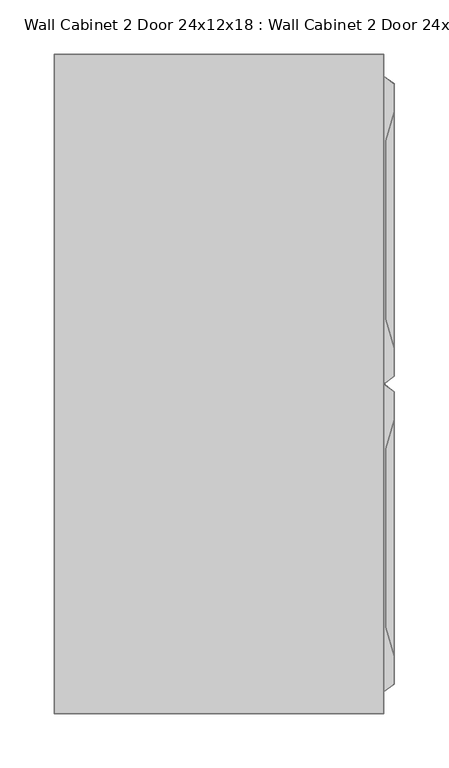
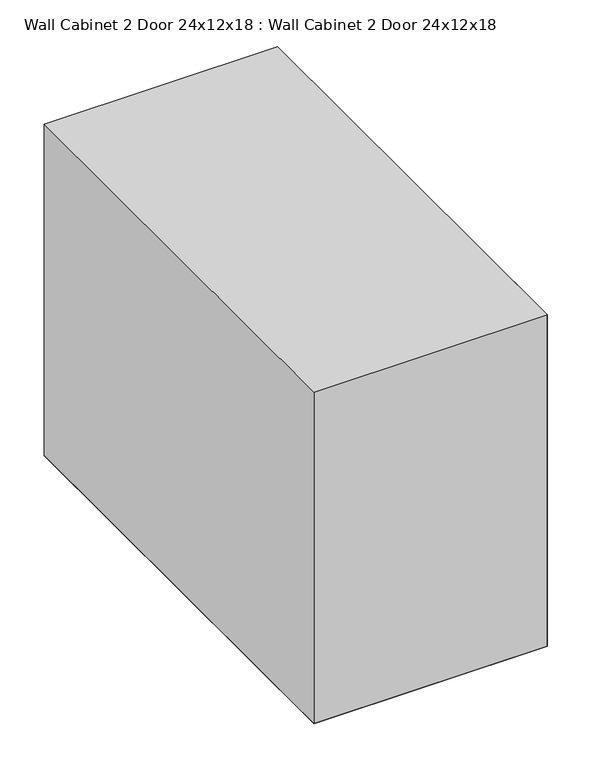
"""IFC4 building model written with IfcOpenShell, lengths in millimetres: furniture geometry, Wall Cabinet 2 Door 24x12x18 : Wall Cabinet 2 Door 24x12x18."""

from ifc_helpers import new_model, si_unit, origin, place, context, project, spatial, triangles, source, transform, mapped, element, save


def wall_cabinet_2_door_24x12x18_wall_cabinet_2_door_24x12x18_907ab7a3(model_context):
    return source(origin(), model_context, "Body", "Tessellation", [
        triangles([(304.8, 494.4831531, 431.8101617), (314.4926497, 492.0691289, 423.3366963), (314.4926497, 537.0575892, 423.3366963), (314.4926497, 447.0806685, 423.3366963), (304.8, 447.0562514, 431.8101617), (314.4926497, 312.0907977, 423.3366963), (314.4926497, 357.1036752, 423.3366963), (304.8, 352.2512824, 431.8101617), (314.4926497, 402.0921719, 423.3366963), (304.8, 399.6537669, 431.8101617), (314.4926497, 537.0575892, 33.8023222), (304.8, 447.0562514, 25.3898406), (304.8, 494.4831531, 25.3898406), (314.4926497, 492.0691289, 33.8023222), (314.4926497, 447.0806685, 33.8023222), (314.4926497, 312.0907977, 33.8023222), (314.4926497, 357.1036752, 33.8023222), (304.8, 352.2512824, 25.3898406), (304.8, 399.6537669, 25.3898406), (314.4926497, 402.0921719, 33.8023222), (304.8, 541.8856376, 431.8101617), (314.4926497, 582.0460496, 423.3366963), (304.8, 589.2881221, 431.8101617), (304.8, 541.8856376, 25.3898406), (304.8, 589.2881221, 25.3898406), (314.4926497, 582.0460496, 33.8023222), (314.4926497, 252.5694672, 33.8023222), (304.8, 257.3975155, 25.3898406), (304.8, 304.8, 25.3898406), (314.4926497, 297.5579457, 33.8023222), (304.8, 209.9950128, 25.3898406), (314.4926497, 207.5809886, 33.8023222), (304.8, 162.5681293, 25.3898406), (304.8, 115.1656358, 25.3898406), (314.4926497, 162.5925101, 33.8023222), (314.4926497, 72.6155531, 33.8023222), (314.4926497, 117.6040407, 33.8023222), (304.8, 20.3362564, 25.3898406), (304.8, 67.7631376, 25.3898406), (314.4926497, 27.602687, 33.8023222), (304.8, 257.3975155, 431.8101617), (314.4926497, 252.5694672, 423.3366963), (314.4926497, 297.5579457, 423.3366963), (304.8, 304.8, 431.8101617), (304.8, 162.5681293, 431.8101617), (304.8, 209.9950128, 431.8101617), (314.4926497, 207.5809886, 423.3366963), (304.8, 115.1656358, 431.8101617), (314.4926497, 117.6040407, 423.3366963), (314.4926497, 162.5925101, 423.3366963), (304.8, 20.3362564, 431.8101617), (314.4926497, 27.602687, 423.3366963), (314.4926497, 72.6155531, 423.3366963), (304.8, 67.7631376, 431.8101617)], [[2, 3, 1], [21, 1, 3], [9, 5, 10], [4, 5, 9], [4, 2, 5], [1, 5, 2], [6, 8, 44], [7, 8, 6], [7, 10, 8], [9, 10, 7], [24, 13, 14], [14, 11, 24], [15, 19, 20], [15, 12, 19], [13, 12, 15], [15, 14, 13], [18, 29, 16], [16, 17, 18], [19, 18, 17], [17, 20, 19], [3, 22, 21], [23, 21, 22], [26, 24, 11], [26, 25, 24], [30, 28, 27], [30, 29, 28], [28, 31, 32], [32, 27, 28], [32, 33, 35], [32, 31, 33], [35, 34, 37], [35, 33, 34], [37, 39, 36], [37, 34, 39], [39, 38, 40], [40, 36, 39], [42, 44, 41], [43, 44, 42], [47, 41, 46], [42, 41, 47], [50, 46, 45], [47, 46, 50], [49, 50, 48], [45, 48, 50], [53, 48, 54], [49, 48, 53], [52, 53, 51], [54, 51, 53]], closed=False),
        triangles([(314.4926497, 556.3453654, 349.2398383), (306.5068726, 529.4741858, 85.4354374), (306.5068726, 392.1191251, 85.4354374), (306.5068726, 392.9969058, 340.3396912), (306.5068726, 419.5998605, 85.4354374), (306.5068726, 417.478442, 360.9441384), (306.5068726, 447.0562514, 367.5583423), (306.5068726, 447.0562514, 85.4354374), (306.5068726, 474.5370232, 85.4354374), (306.5068726, 476.6340245, 360.9441384), (306.5068726, 501.1399415, 340.3396912), (306.5068726, 502.0177949, 85.4354374), (306.5068726, 529.5473282, 329.2449832), (306.5068726, 364.5651747, 329.2449832), (314.4926497, 337.7671738, 349.2398383), (306.5068726, 364.6627341, 85.4354374), (314.4926497, 312.0664533, 423.3366963), (304.8, 304.8243808, 431.8101617), (304.8, 304.8243808, 25.3898406), (314.4926497, 337.8159353, 63.6727169), (314.4926497, 312.0664533, 33.8023222), (314.4926497, 556.3209483, 63.6727169), (314.4926497, 582.0460496, 33.8023222), (314.4926497, 582.0460496, 423.3366963), (304.8, 20.3362564, 25.3898406), (304.8, 20.3362564, 431.8101617), (314.4926497, 53.3278087, 63.6727169), (314.4926497, 27.5783039, 33.8023222), (314.4926497, 27.5783039, 423.3366963), (306.5068726, 80.0770617, 329.2449832), (314.4926497, 53.2790381, 349.2398383), (314.4926497, 297.5579457, 33.8023222), (314.4926497, 297.5579457, 423.3366963), (306.5068726, 244.9860456, 85.4354374), (314.4926497, 271.8328262, 63.6727169), (314.4926497, 271.8572252, 349.2398383), (306.5068726, 245.0591879, 329.2449832), (306.5068726, 216.6518376, 340.3396912), (306.5068726, 190.0489011, 85.4354374), (306.5068726, 217.5296728, 85.4354374), (306.5068726, 192.1459206, 360.9441384), (306.5068726, 162.5681293, 85.4354374), (306.5068726, 132.990329, 360.9441384), (306.5068726, 135.1117384, 85.4354374), (306.5068726, 162.5681293, 367.5583423), (306.5068726, 108.5087928, 340.3396912), (306.5068726, 80.1745939, 85.4354374), (306.5068726, 107.6309757, 85.4354374)], [[2, 1, 13], [22, 1, 2], [16, 3, 14], [4, 14, 3], [3, 5, 4], [6, 4, 5], [5, 8, 6], [7, 6, 8], [8, 9, 7], [10, 7, 9], [9, 12, 10], [11, 10, 12], [12, 2, 11], [13, 11, 2], [15, 16, 14], [15, 20, 16], [18, 21, 17], [18, 19, 21], [21, 20, 15], [15, 17, 21], [22, 23, 1], [24, 1, 23], [26, 28, 29], [26, 25, 28], [28, 27, 31], [31, 29, 28], [31, 47, 30], [31, 27, 47], [35, 32, 36], [33, 36, 32], [34, 36, 37], [35, 36, 34], [40, 34, 38], [37, 38, 34], [39, 40, 41], [38, 41, 40], [42, 39, 45], [41, 45, 39], [44, 42, 43], [45, 43, 42], [48, 44, 46], [43, 46, 44], [47, 48, 30], [46, 30, 48]], closed=False),
        triangles([(314.4926497, 582.0460496, 423.3366963), (314.4926497, 582.0460496, 33.8023222), (304.8, 589.2881221, 25.3898406), (304.8, 589.2881221, 431.8101617), (314.4926497, 297.5579457, 33.8023222), (304.8, 304.8, 25.3898406), (304.8, 304.8, 431.8101617), (314.4926497, 297.5579457, 423.3366963)], [[2, 4, 1], [3, 4, 2], [5, 6, 8], [7, 8, 6]], closed=False),
        triangles([(306.5068726, 529.5473282, 329.2449832), (314.4926497, 518.111253, 359.5115951), (306.5068726, 476.6340245, 360.9441384), (306.5068726, 447.0562514, 367.5583423), (306.5068726, 501.1399415, 340.3396912), (314.4926497, 402.0921719, 423.3366963), (314.4926497, 447.0806685, 423.3366963), (314.4926497, 447.0562514, 393.6491916), (314.4926497, 485.5829696, 385.0538587), (314.4926497, 492.0691289, 423.3366963), (314.4926497, 556.3453654, 349.2398383), (314.4926497, 582.0460496, 423.3366963), (314.4926497, 537.0575892, 423.3366963), (306.5068726, 364.5651747, 329.2449832), (314.4926497, 375.9769054, 359.5115951), (314.4926497, 312.0907977, 423.3366963), (314.4926497, 337.742793, 349.2398383), (314.4926497, 357.1036752, 423.3366963), (314.4926497, 408.5295333, 385.0538587), (306.5068726, 392.9969058, 340.3396912), (306.5068726, 417.478442, 360.9441384), (306.5068726, 502.0177949, 85.4354374), (306.5068726, 529.4741858, 85.4354374), (314.4926497, 447.0318707, 63.6727169), (306.5068726, 419.5998605, 85.4354374), (306.5068726, 447.0562514, 85.4354374), (314.4926497, 519.8912679, 63.6727169), (306.5068726, 474.5370232, 85.4354374), (314.4926497, 492.0691289, 33.8023222), (314.4926497, 483.4615874, 63.6727169), (314.4926497, 447.0806685, 33.8023222), (314.4926497, 410.6021539, 63.6727169), (314.4926497, 537.0575892, 33.8023222), (314.4926497, 582.0460496, 33.8023222), (314.4926497, 556.3209483, 63.6727169), (306.5068726, 364.6627341, 85.4354374), (306.5068726, 392.1191251, 85.4354374), (314.4926497, 312.0907977, 33.8023222), (314.4926497, 337.742793, 63.6727169), (314.4926497, 357.1036752, 33.8023222), (314.4926497, 402.0921719, 33.8023222), (314.4926497, 374.1724734, 63.6727169), (314.4926497, 252.5694672, 33.8023222), (314.4926497, 297.5579457, 33.8023222), (314.4926497, 235.4031458, 63.6727169), (314.4926497, 207.5809886, 33.8023222), (314.4926497, 162.5925101, 33.8023222), (314.4926497, 117.6040407, 33.8023222), (314.4926497, 53.2546573, 63.6727169), (314.4926497, 27.602687, 33.8023222), (314.4926497, 72.6155531, 33.8023222), (306.5068726, 217.5296728, 85.4354374), (314.4926497, 271.8328262, 63.6727169), (306.5068726, 244.9860456, 85.4354374), (306.5068726, 162.5681293, 85.4354374), (314.4926497, 162.5437486, 63.6727169), (314.4926497, 198.9734472, 63.6727169), (306.5068726, 190.0489011, 85.4354374), (306.5068726, 135.1117384, 85.4354374), (314.4926497, 126.1140409, 63.6727169), (306.5068726, 80.1745939, 85.4354374), (306.5068726, 107.6309757, 85.4354374), (314.4926497, 89.6843513, 63.6727169), (306.5068726, 216.6518376, 340.3396912), (306.5068726, 245.0591879, 329.2449832), (314.4926497, 233.6230946, 359.5115951), (314.4926497, 201.0948475, 385.0538587), (306.5068726, 192.1459206, 360.9441384), (306.5068726, 162.5681293, 367.5583423), (306.5068726, 108.5087928, 340.3396912), (306.5068726, 132.990329, 360.9441384), (306.5068726, 80.0770617, 329.2449832), (314.4926497, 252.5694672, 423.3366963), (314.4926497, 271.8572252, 349.2398383), (314.4926497, 297.5579457, 423.3366963), (314.4926497, 207.5809886, 423.3366963), (314.4926497, 162.5681293, 393.6491916), (314.4926497, 162.5925101, 423.3366963), (314.4926497, 117.6040407, 423.3366963), (314.4926497, 72.6155531, 423.3366963), (314.4926497, 91.4887652, 359.5115951), (314.4926497, 124.0414112, 385.0538587), (314.4926497, 27.602687, 423.3366963), (314.4926497, 53.2546573, 349.2398383)], [[1, 2, 5], [11, 2, 1], [4, 9, 8], [3, 9, 4], [4, 19, 21], [8, 19, 4], [3, 2, 9], [5, 2, 3], [19, 8, 6], [7, 6, 8], [8, 9, 7], [10, 7, 9], [9, 2, 10], [13, 10, 2], [2, 11, 13], [12, 13, 11], [14, 15, 17], [20, 15, 14], [17, 15, 16], [18, 16, 15], [15, 19, 18], [6, 18, 19], [21, 15, 20], [19, 15, 21], [27, 35, 22], [23, 22, 35], [24, 28, 26], [30, 28, 24], [32, 26, 25], [24, 26, 32], [30, 27, 28], [22, 28, 27], [29, 33, 30], [27, 30, 33], [31, 29, 24], [30, 24, 29], [41, 31, 32], [24, 32, 31], [33, 34, 27], [35, 27, 34], [39, 37, 36], [42, 37, 39], [38, 40, 39], [42, 39, 40], [42, 32, 37], [25, 37, 32], [40, 41, 42], [32, 42, 41], [43, 44, 45], [53, 45, 44], [46, 43, 57], [45, 57, 43], [47, 46, 56], [57, 56, 46], [48, 47, 60], [56, 60, 47], [51, 48, 63], [60, 63, 48], [50, 51, 49], [63, 49, 51], [45, 54, 52], [53, 54, 45], [57, 45, 58], [52, 58, 45], [56, 57, 55], [58, 55, 57], [60, 55, 59], [56, 55, 60], [63, 59, 62], [60, 59, 63], [49, 62, 61], [63, 62, 49], [65, 66, 64], [74, 66, 65], [68, 66, 67], [64, 66, 68], [69, 67, 77], [68, 67, 69], [69, 82, 71], [77, 82, 69], [71, 81, 70], [82, 81, 71], [72, 81, 84], [70, 81, 72], [66, 74, 73], [75, 73, 74], [67, 66, 76], [73, 76, 66], [77, 67, 78], [76, 78, 67], [82, 77, 79], [78, 79, 77], [81, 82, 80], [79, 80, 82], [84, 81, 83], [80, 83, 81]], closed=False),
        triangles([(0.0, 609.6, 0.0), (304.8, 609.6, 0.0), (304.8, 0.0, 0.0), (0.0, 0.0, 0.0), (304.8, 609.6, 457.2), (0.0, 609.6, 457.2), (0.0, 0.0, 457.2), (304.8, 0.0, 457.2)], [[2, 1, 4], [4, 3, 2], [5, 6, 8], [7, 8, 6]], closed=False),
        triangles([(0.0, 609.6, 457.2), (0.0, 609.6, 0.0), (0.0, 0.0, 0.0), (0.0, 0.0, 457.2), (304.8, 0.0, 0.0), (304.8, 609.6, 0.0), (304.8, 609.6, 457.2), (304.8, 0.0, 457.2)], [[3, 2, 1], [1, 4, 3], [5, 6, 8], [7, 8, 6]], closed=False),
        triangles([(0.0, 0.0, 457.2), (0.0, 0.0, 0.0), (304.8, 0.0, 0.0), (304.8, 0.0, 457.2), (304.8, 609.6, 457.2), (304.8, 609.6, 0.0), (0.0, 609.6, 0.0), (0.0, 609.6, 457.2)], [[3, 2, 1], [1, 4, 3], [6, 7, 5], [8, 5, 7]], closed=False),
    ])


if __name__ == "__main__":
    model = new_model("IFC4")
    model_context = context("Model", 3, world=origin())
    ifc_project = project(units=[si_unit("LENGTHUNIT", "METRE", prefix="MILLI")], contexts=[model_context])
    site = spatial("IfcSite", under=ifc_project)
    building = spatial("IfcBuilding", under=site)
    placement = place(None, origin())
    wall_cabinet_2_door_24x12x18_wall_cabinet_2_door_24x12x18_shape = wall_cabinet_2_door_24x12x18_wall_cabinet_2_door_24x12x18_907ab7a3(model_context)
    element("IfcFurniture", 1, ObjectType="Wall Cabinet 2 Door 24x12x18 : Wall Cabinet 2 Door 24x12x18", at=placement, inside=building, context=model_context, shape_type="MappedRepresentation", body=[
        mapped(wall_cabinet_2_door_24x12x18_wall_cabinet_2_door_24x12x18_shape, transform((0.0, 0.0, 0.0), x_axis=(1.0, 0.0, 0.0), y_axis=(0.0, 1.0, 0.0), z_axis=(0.0, 0.0, 1.0))),
    ])
    save(model, "model.ifc")
